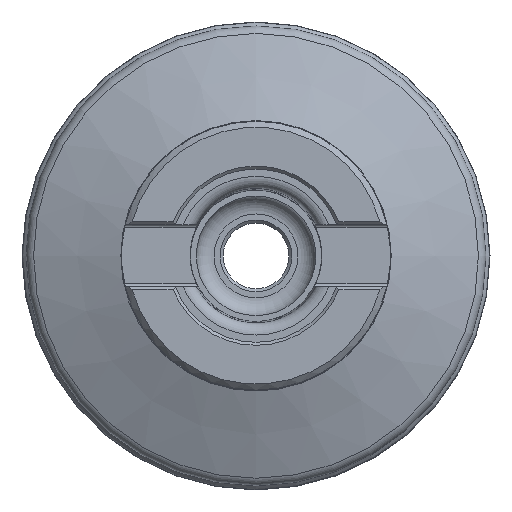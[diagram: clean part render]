
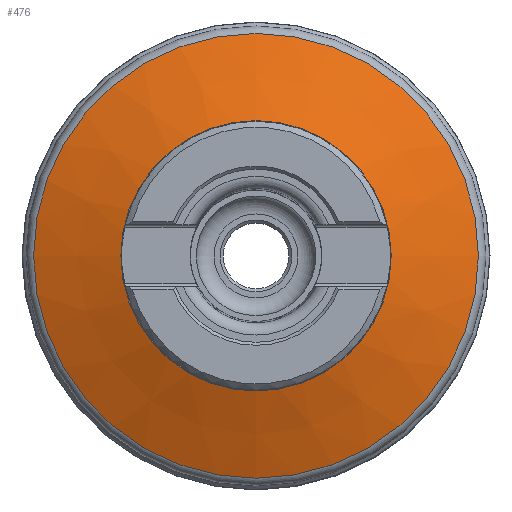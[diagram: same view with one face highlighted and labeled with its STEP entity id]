
A CAD part, top view. The second image highlights one B-rep face of the part: STEP entity #476.
In plain terms, the highlighted conical face has half-angle 68.499 degrees and reference radius 22 mm.
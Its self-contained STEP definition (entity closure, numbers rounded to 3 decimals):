
#294=CONICAL_SURFACE('',#1313,22.,68.499);
#369=FACE_BOUND('',#600,.T.);
#370=FACE_BOUND('',#601,.T.);
#476=ADVANCED_FACE('',(#369,#370),#294,.T.);
#600=EDGE_LOOP('',(#805));
#601=EDGE_LOOP('',(#806));
#805=ORIENTED_EDGE('',*,*,#1135,.T.);
#806=ORIENTED_EDGE('',*,*,#1136,.T.);
#1035=VERTEX_POINT('',#1876);
#1036=VERTEX_POINT('',#1878);
#1135=EDGE_CURVE('',#1035,#1035,#1235,.T.);
#1136=EDGE_CURVE('',#1036,#1036,#1236,.T.);
#1235=CIRCLE('',#1311,22.633);
#1236=CIRCLE('',#1312,37.233);
#1311=AXIS2_PLACEMENT_3D('',#1875,#1467,#1468);
#1312=AXIS2_PLACEMENT_3D('',#1877,#1469,#1470);
#1313=AXIS2_PLACEMENT_3D('',#1879,#1471,#1472);
#1467=DIRECTION('',(0.,0.,-1.));
#1468=DIRECTION('',(-1.,0.,0.));
#1469=DIRECTION('',(0.,0.,1.));
#1470=DIRECTION('',(1.,0.,0.));
#1471=DIRECTION('',(0.,0.,-1.));
#1472=DIRECTION('',(1.,0.,0.));
#1875=CARTESIAN_POINT('',(0.,0.,-10.75));
#1876=CARTESIAN_POINT('',(-22.633,0.,-10.75));
#1877=CARTESIAN_POINT('',(0.,0.,-16.501));
#1878=CARTESIAN_POINT('',(37.233,0.,-16.501));
#1879=CARTESIAN_POINT('',(0.,0.,-10.5));
